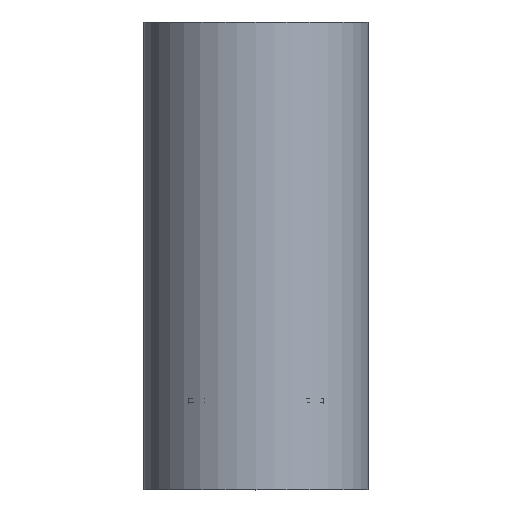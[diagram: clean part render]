
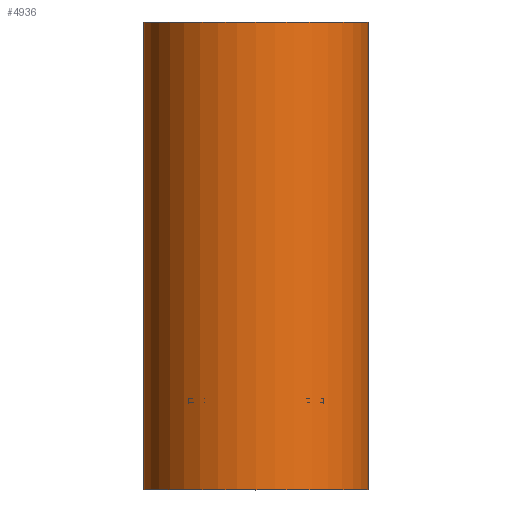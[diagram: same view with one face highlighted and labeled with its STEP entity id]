
A CAD part, top view. The second image highlights one B-rep face of the part: STEP entity #4936.
In plain terms, the highlighted cylindrical face has radius 30 mm (diameter 60 mm), a partial arc.
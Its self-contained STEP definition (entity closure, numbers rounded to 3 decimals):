
#657=FACE_OUTER_BOUND('',#947,.T.);
#947=EDGE_LOOP('',(#4554,#4555,#4556,#4557));
#1176=CIRCLE('',#5416,30.);
#1178=CIRCLE('',#5419,30.);
#1546=LINE('',#10080,#1914);
#1547=LINE('',#10082,#1915);
#1914=VECTOR('',#6740,1.);
#1915=VECTOR('',#6741,1.);
#2406=VERTEX_POINT('',#10074);
#2407=VERTEX_POINT('',#10075);
#2408=VERTEX_POINT('',#10079);
#2409=VERTEX_POINT('',#10081);
#3148=EDGE_CURVE('',#2406,#2407,#1176,.T.);
#3150=EDGE_CURVE('',#2406,#2408,#1546,.T.);
#3151=EDGE_CURVE('',#2409,#2407,#1547,.T.);
#3152=EDGE_CURVE('',#2408,#2409,#1178,.T.);
#4554=ORIENTED_EDGE('',*,*,#3150,.F.);
#4555=ORIENTED_EDGE('',*,*,#3148,.T.);
#4556=ORIENTED_EDGE('',*,*,#3151,.F.);
#4557=ORIENTED_EDGE('',*,*,#3152,.F.);
#4676=CYLINDRICAL_SURFACE('',#5418,30.);
#4936=ADVANCED_FACE('',(#657),#4676,.T.);
#5416=AXIS2_PLACEMENT_3D('',#10076,#6734,#6735);
#5418=AXIS2_PLACEMENT_3D('',#10078,#6738,#6739);
#5419=AXIS2_PLACEMENT_3D('',#10083,#6742,#6743);
#6734=DIRECTION('center_axis',(-1.,0.,0.));
#6735=DIRECTION('ref_axis',(0.,1.,0.));
#6738=DIRECTION('center_axis',(-1.,0.,0.));
#6739=DIRECTION('ref_axis',(0.,1.,0.));
#6740=DIRECTION('',(-1.,0.,0.));
#6741=DIRECTION('',(1.,0.,0.));
#6742=DIRECTION('center_axis',(-1.,0.,0.));
#6743=DIRECTION('ref_axis',(0.,1.,0.));
#10074=CARTESIAN_POINT('',(86.5,-30.,42.625));
#10075=CARTESIAN_POINT('',(86.5,30.,42.625));
#10076=CARTESIAN_POINT('Origin',(86.5,0.,
42.625));
#10078=CARTESIAN_POINT('Origin',(-38.5,0.,
42.625));
#10079=CARTESIAN_POINT('',(-38.5,-30.,42.625));
#10080=CARTESIAN_POINT('',(86.5,-30.,42.625));
#10081=CARTESIAN_POINT('',(-38.5,30.,42.625));
#10082=CARTESIAN_POINT('',(-38.5,30.,42.625));
#10083=CARTESIAN_POINT('Origin',(-38.5,0.,
42.625));
